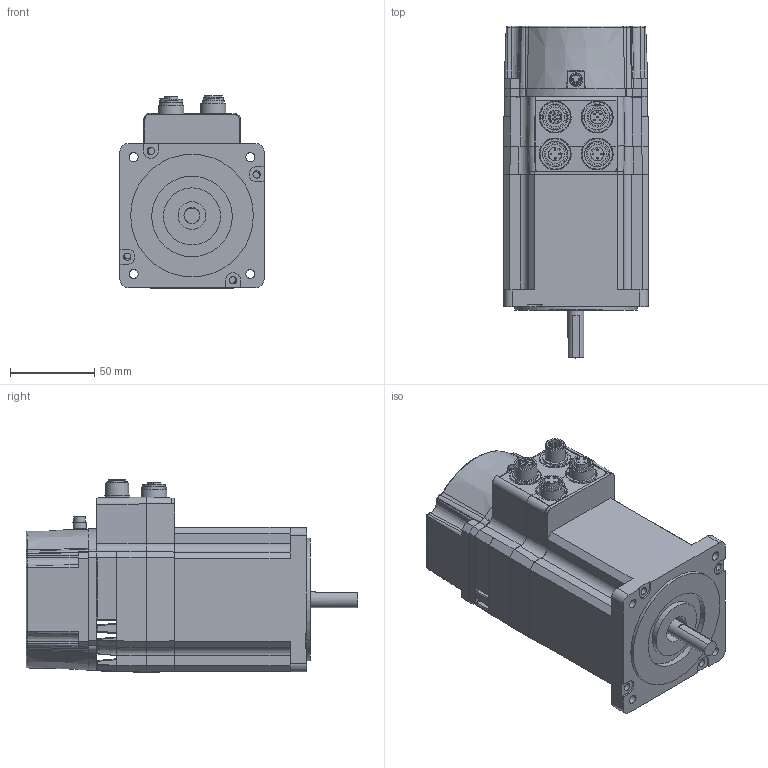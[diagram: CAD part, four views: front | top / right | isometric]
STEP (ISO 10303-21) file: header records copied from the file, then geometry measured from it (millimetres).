
FILE_DESCRIPTION( ( 'Unknown' ), '1' );
FILE_NAME( 'K:/JVL/MISxx/MIS34x/CAD internet tegninger/Original/MIS341C13xxxx85 with brake.stp', 'Unknown', ( 'Unknown' ), ( 'Unknown' ), 'PSStep 11.0', 'Unknown', ' ' );
FILE_SCHEMA( ( 'AUTOMOTIVE_DESIGN { 1 0 10303 214 1 1 1 1 }' ) );
Length unit declared in the file: millimetre
Products named in the file (5): M8 M4
Bounding box: 86.5 x 197.5 x 114.56 mm (x, y, z)
Volume: 1018280.7 mm3; surface area: 156987.6 mm2
Topology: 5 solids, 8 shells, 1373 faces, 3431 edges, 2132 vertices
Faces by surface type: plane 670, cylinder 492, sphere 113, cone 43, bspline 28, torus 23, extrusion 4
Full cylindrical faces by diameter (mm): 0.7 x17, 1 x21, 2.459 x4, 3 x5, 3.242 x5, 3.5 x4, 4 x1, 4.3 x4, 4.4 x4, 4.5 x7, 5.4 x4, 5.62 x1, 6.8 x2, 7 x4, 8 x1, 8.2 x1, 9.53 x1, 10 x1, 10.6 x1, 11.5 x3, 12 x1, 13.3 x2, 13.6 x1, 16 x1, 16.5 x1, 17 x1, 18 x5, 19 x6, 34 x1, 44 x1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
Entity records: 52046 total; most frequent: CARTESIAN_POINT 8267, DIRECTION 7063, ORIENTED_EDGE 6484, EDGE_CURVE 3242, AXIS2_PLACEMENT_3D 2553, VERTEX_POINT 2072, VECTOR 1957, LINE 1953
